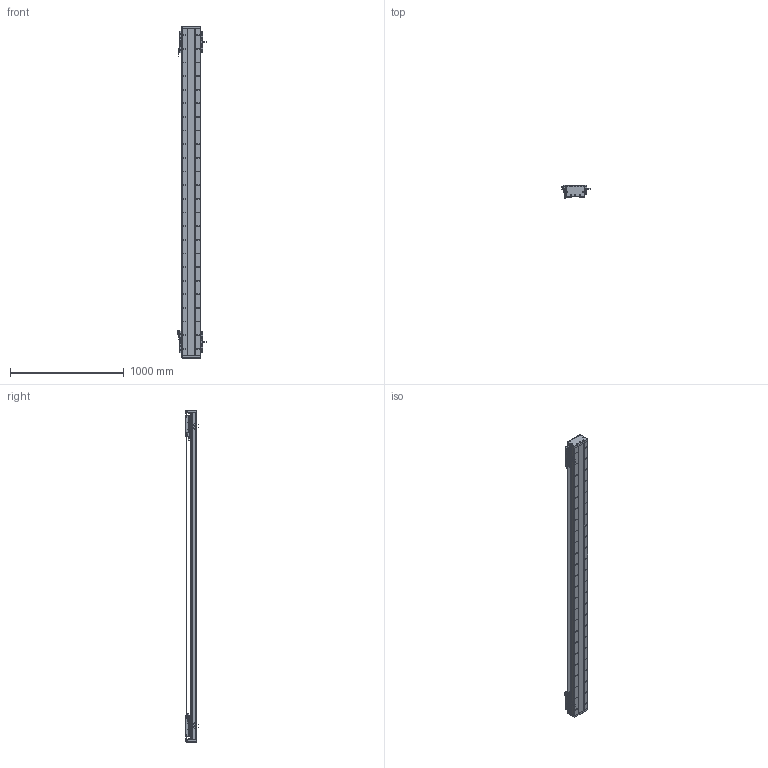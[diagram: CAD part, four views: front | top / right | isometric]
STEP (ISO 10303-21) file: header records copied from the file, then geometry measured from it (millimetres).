
FILE_DESCRIPTION (( 'STEP AP203' ), '1' );
FILE_NAME ('DA-C165-2-C2-T2420-C010-0.2 直线电机.STEP', '2023-05-11T08:29:07', ( '微软用户' ), ( '微软中国' ), 'SwSTEP 2.0', 'SolidWorks 2019', '' );
FILE_SCHEMA (( 'CONFIG_CONTROL_DESIGN' ));
Length unit declared in the file: millimetre
Products named in the file (22): 葩璃 PM-Y45^DA-C165-C2-T-C010-0.2-N 眻盄萇儂; 复件 CU165钢带组件^DA-C165-C2-T-C010-0.2-N 直线电机; 复件 DKW-HXJ-JY-00 缓冲橡胶^DA-C165-C2-T-C010-0.2-N 直线电机; 复件 DA126-GYP-ZJ-00 中间光电感应片^DA-C165-C2-T-C010-0.2-N 直线电机; 复件 DA165-GD-DG-H-00 端盖^复件 CU165钢带组件_DA-C165-C2-T-C010-0.2-N 直线电机; 复件 XD-U-02L 磁栅尺^DA-C165-C2-T-C010-0.2-N 直线电机_T; 复件 DA165-GDYK-00 钢带压块^复件 CU165钢带组件_DA-C165-C2-T-C010-0.2-N 直线电机; IU-CU165-L-00 菁釱_L2880; 葩璃 CKM01-W075-TRL^DA-C165-C2-T-C010-0.2-N 眻盄萇儂; 复件 六角薄螺母 M3^DA-C165-C2-T-C010-0.2-N 直线电机_GB_FASTENER_NUT_STNAB M3-C; 葩璃 DA95-GT-T-00^IU-CU165-L 菁釱絳寢_T; DA-C165-2-C2-T2420-C010-0.2 眻盄萇儂; 复件 DA165-GD-1860-002-00 钢带盖板^复件 CU165钢带组件_DA-C165-C2-T-C010-0.2-N 直线电机; 珨极趙賑雄怢啣wf-C2; 复件 DA165-GDLK-00 钢带拉块^复件 CU165钢带组件_DA-C165-C2-T-C010-0.2-N 直线电机; 复件 DA165-GYP-00 光电感应片^DA-C165-C2-T-C010-0.2-N 直线电机; 复件 CKM02-W075-C1C2-TP-3.0 一体电机-C2^DA-C165-C2-T-C010-0.2-N 直线电机; IU-CU165-L 菁釱絳寢; 复件 DA95-HXJ-00 缓冲橡胶^DA-C165-C2-T-C010-0.2-N 直线电机; 复件 66338-1000-006-00 光电感应块^DA-C165-C2-T-C010-0.2-N 直线电机; 葩璃 PM-T45^DA-C165-C2-T-C010-0.2-N 眻盄萇儂; 复件 DMA-010-0.2 读数头^DA-C165-C2-T-C010-0.2-N 直线电机
Assembly tree (43 placements, depth 3):
  DA-C165-2-C2-T2420-C010-0.2 眻盄萇儂
    IU-CU165-L 菁釱絳寢
      IU-CU165-L-00 菁釱_L2880
      葩璃 DA95-GT-T-00^IU-CU165-L 菁釱絳寢_T  x4
    复件 XD-U-02L 磁栅尺^DA-C165-C2-T-C010-0.2-N 直线电机_T
    葩璃 PM-T45^DA-C165-C2-T-C010-0.2-N 眻盄萇儂  x4
    葩璃 CKM01-W075-TRL^DA-C165-C2-T-C010-0.2-N 眻盄萇儂
    复件 CU165钢带组件^DA-C165-C2-T-C010-0.2-N 直线电机
      复件 DA165-GD-DG-H-00 端盖^复件 CU165钢带组件_DA-C165-C2-T-C010-0.2-N 直线电机  x2
      复件 DA165-GDYK-00 钢带压块^复件 CU165钢带组件_DA-C165-C2-T-C010-0.2-N 直线电机  x2
      复件 DA165-GD-1860-002-00 钢带盖板^复件 CU165钢带组件_DA-C165-C2-T-C010-0.2-N 直线电机
      复件 DA165-GDLK-00 钢带拉块^复件 CU165钢带组件_DA-C165-C2-T-C010-0.2-N 直线电机  x2
    复件 DA95-HXJ-00 缓冲橡胶^DA-C165-C2-T-C010-0.2-N 直线电机  x4
    复件 CKM02-W075-C1C2-TP-3.0 一体电机-C2^DA-C165-C2-T-C010-0.2-N 直线电机  x2
    复件 DMA-010-0.2 读数头^DA-C165-C2-T-C010-0.2-N 直线电机  x2
    复件 DA165-GYP-00 光电感应片^DA-C165-C2-T-C010-0.2-N 直线电机  x2
    复件 66338-1000-006-00 光电感应块^DA-C165-C2-T-C010-0.2-N 直线电机
    葩璃 PM-Y45^DA-C165-C2-T-C010-0.2-N 眻盄萇儂
    复件 DA126-GYP-ZJ-00 中间光电感应片^DA-C165-C2-T-C010-0.2-N 直线电机
    复件 DKW-HXJ-JY-00 缓冲橡胶^DA-C165-C2-T-C010-0.2-N 直线电机  x2
    复件 六角薄螺母 M3^DA-C165-C2-T-C010-0.2-N 直线电机_GB_FASTENER_NUT_STNAB M3-C  x6
    珨极趙賑雄怢啣wf-C2  x2
Bounding box: 247.2 x 111.45 x 2920 mm (x, y, z)
Volume: 17604904.4 mm3; surface area: 5148263.4 mm2
Topology: 119 solids, 119 shells, 5795 faces, 16404 edges, 10372 vertices
Faces by surface type: cylinder 3188, plane 1815, cone 704, torus 80, sphere 8
Entity records: 143048 total; most frequent: CARTESIAN_POINT 38791, ORIENTED_EDGE 21752, DIRECTION 20814, EDGE_CURVE 10876, AXIS2_PLACEMENT_3D 7918, VERTEX_POINT 7109, LINE 4978, VECTOR 4978
